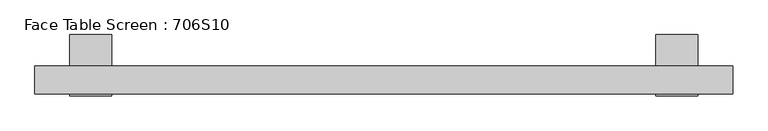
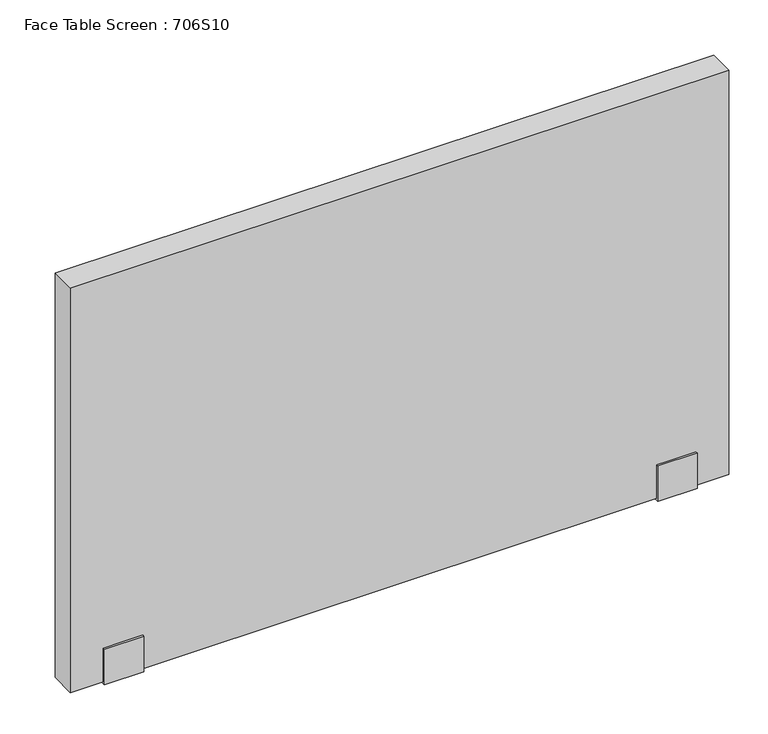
"""IFC4 building model written with IfcOpenShell, lengths in millimetres: furniture geometry, Face Table Screen : 706S10."""

from ifc_helpers import new_model, si_unit, frame, origin, place, context, project, spatial, polyline, outline, extrude, source, transform, mapped, element, save


def face_table_screen_706s10_b39df75a(model_context):
    return source(origin(), model_context, "Body", "SweptSolid", [
        extrude(outline(polyline([(-22.9999947, -156.0), (-22.9999997, -99.0433898), (-20.0, -99.0433898), (-20.0, -153.0), (20.0, -153.0), (20.0, -22.0), (65.0, -22.0), (65.0, -25.0433898), (23.0000062, -25.0433898), (22.9999947, -156.0), (-22.9999947, -156.0)])), frame((390.0, 0.0, 0.0), z_axis=(1.0, 0.0, 0.0), x_axis=(0.0, 1.0, 0.0)), (0.0, 0.0, 1.0), 60.0),
        extrude(outline(polyline([(-22.9999947, -156.0), (-22.9999997, -99.0433898), (-20.0, -99.0433898), (-20.0, -153.0), (20.0, -153.0), (20.0, -22.0), (65.0, -22.0), (65.0, -25.0433898), (23.0000062, -25.0433898), (22.9999947, -156.0), (-22.9999947, -156.0)])), frame((-450.0, 0.0, 0.0), z_axis=(1.0, 0.0, 0.0), x_axis=(0.0, 1.0, 0.0)), (0.0, 0.0, 1.0), 60.0),
        extrude(outline(polyline([(500.0, -20.0), (-500.0, -20.0), (-500.0, 20.0), (500.0, 20.0), (500.0, -20.0)])), frame((0.0, 0.0, -153.0), z_axis=(0.0, 0.0, 1.0), x_axis=(1.0, 0.0, 0.0)), (0.0, 0.0, 1.0), 650.0),
    ])


if __name__ == "__main__":
    model = new_model("IFC4")
    model_context = context("Model", 3, world=origin())
    ifc_project = project(units=[si_unit("LENGTHUNIT", "METRE", prefix="MILLI")], contexts=[model_context])
    site = spatial("IfcSite", under=ifc_project)
    building = spatial("IfcBuilding", under=site)
    placement = place(None, origin())
    face_table_screen_706s10_shape = face_table_screen_706s10_b39df75a(model_context)
    element("IfcFurniture", 1, ObjectType="Face Table Screen : 706S10", at=placement, inside=building, context=model_context, shape_type="MappedRepresentation", body=[
        mapped(face_table_screen_706s10_shape, transform((0.0, 0.0, 0.0), x_axis=(1.0, 0.0, 0.0), y_axis=(0.0, 1.0, 0.0), z_axis=(0.0, 0.0, 1.0))),
    ])
    save(model, "model.ifc")
